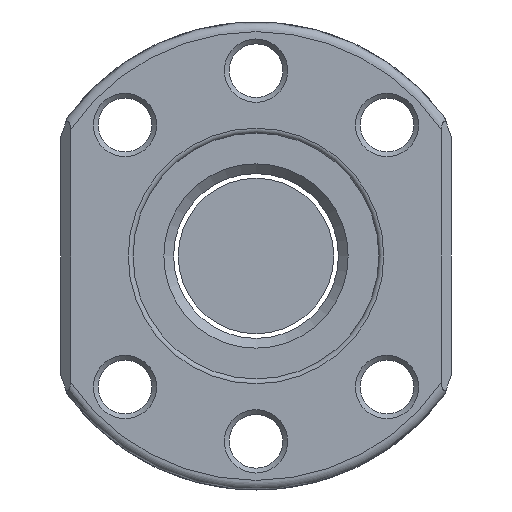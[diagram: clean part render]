
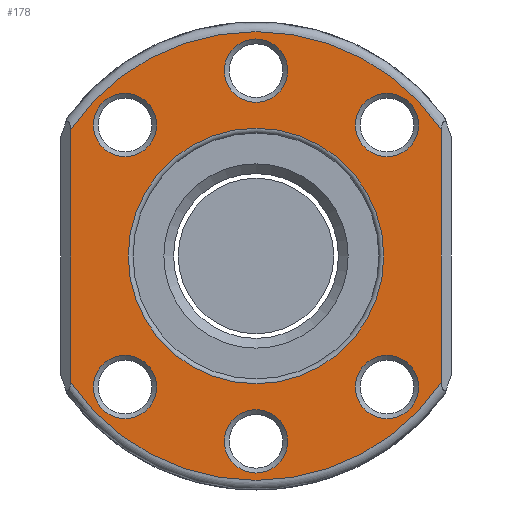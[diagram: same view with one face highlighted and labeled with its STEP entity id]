
A CAD part, front view. The second image highlights one B-rep face of the part: STEP entity #178.
In plain terms, the highlighted planar face has unit normal (0, -1, 0).
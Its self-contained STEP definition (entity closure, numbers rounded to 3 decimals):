
#74=LINE('',#1204,#98);
#75=LINE('',#1208,#99);
#98=VECTOR('',#987,1.);
#99=VECTOR('',#990,1.);
#134=PLANE('',#824);
#178=ADVANCED_FACE('',(#250,#251,#252,#253,#254,#255,#256,#257),#134,.T.);
#250=FACE_BOUND('',#332,.T.);
#251=FACE_BOUND('',#333,.T.);
#252=FACE_BOUND('',#334,.T.);
#253=FACE_BOUND('',#335,.T.);
#254=FACE_BOUND('',#336,.T.);
#255=FACE_BOUND('',#337,.T.);
#256=FACE_BOUND('',#338,.T.);
#257=FACE_BOUND('',#339,.T.);
#332=EDGE_LOOP('',(#441));
#333=EDGE_LOOP('',(#442));
#334=EDGE_LOOP('',(#443));
#335=EDGE_LOOP('',(#444));
#336=EDGE_LOOP('',(#445));
#337=EDGE_LOOP('',(#446));
#338=EDGE_LOOP('',(#447));
#339=EDGE_LOOP('',(#448,#449,#450,#451));
#441=ORIENTED_EDGE('',*,*,#681,.T.);
#442=ORIENTED_EDGE('',*,*,#682,.T.);
#443=ORIENTED_EDGE('',*,*,#683,.T.);
#444=ORIENTED_EDGE('',*,*,#684,.T.);
#445=ORIENTED_EDGE('',*,*,#685,.T.);
#446=ORIENTED_EDGE('',*,*,#686,.T.);
#447=ORIENTED_EDGE('',*,*,#687,.T.);
#448=ORIENTED_EDGE('',*,*,#688,.T.);
#449=ORIENTED_EDGE('',*,*,#689,.T.);
#450=ORIENTED_EDGE('',*,*,#690,.T.);
#451=ORIENTED_EDGE('',*,*,#691,.T.);
#611=VERTEX_POINT('',#1188);
#612=VERTEX_POINT('',#1190);
#613=VERTEX_POINT('',#1192);
#614=VERTEX_POINT('',#1194);
#615=VERTEX_POINT('',#1196);
#616=VERTEX_POINT('',#1198);
#617=VERTEX_POINT('',#1200);
#618=VERTEX_POINT('',#1202);
#619=VERTEX_POINT('',#1203);
#620=VERTEX_POINT('',#1205);
#621=VERTEX_POINT('',#1207);
#681=EDGE_CURVE('',#611,#611,#753,.T.);
#682=EDGE_CURVE('',#612,#612,#754,.T.);
#683=EDGE_CURVE('',#613,#613,#755,.T.);
#684=EDGE_CURVE('',#614,#614,#756,.T.);
#685=EDGE_CURVE('',#615,#615,#757,.T.);
#686=EDGE_CURVE('',#616,#616,#758,.T.);
#687=EDGE_CURVE('',#617,#617,#759,.T.);
#688=EDGE_CURVE('',#618,#619,#760,.T.);
#689=EDGE_CURVE('',#619,#620,#74,.T.);
#690=EDGE_CURVE('',#620,#621,#761,.T.);
#691=EDGE_CURVE('',#621,#618,#75,.T.);
#753=CIRCLE('',#815,3.25);
#754=CIRCLE('',#816,3.25);
#755=CIRCLE('',#817,3.25);
#756=CIRCLE('',#818,3.25);
#757=CIRCLE('',#819,3.25);
#758=CIRCLE('',#820,3.25);
#759=CIRCLE('',#821,13.1);
#760=CIRCLE('',#822,23.);
#761=CIRCLE('',#823,23.);
#815=AXIS2_PLACEMENT_3D('',#1187,#971,#972);
#816=AXIS2_PLACEMENT_3D('',#1189,#973,#974);
#817=AXIS2_PLACEMENT_3D('',#1191,#975,#976);
#818=AXIS2_PLACEMENT_3D('',#1193,#977,#978);
#819=AXIS2_PLACEMENT_3D('',#1195,#979,#980);
#820=AXIS2_PLACEMENT_3D('',#1197,#981,#982);
#821=AXIS2_PLACEMENT_3D('',#1199,#983,#984);
#822=AXIS2_PLACEMENT_3D('',#1201,#985,#986);
#823=AXIS2_PLACEMENT_3D('',#1206,#988,#989);
#824=AXIS2_PLACEMENT_3D('',#1209,#991,#992);
#971=DIRECTION('',(0.,1.,0.));
#972=DIRECTION('',(0.,0.,-1.));
#973=DIRECTION('',(0.,1.,0.));
#974=DIRECTION('',(0.,0.,-1.));
#975=DIRECTION('',(0.,1.,0.));
#976=DIRECTION('',(0.,0.,-1.));
#977=DIRECTION('',(0.,1.,0.));
#978=DIRECTION('',(0.,0.,-1.));
#979=DIRECTION('',(0.,1.,0.));
#980=DIRECTION('',(0.,0.,-1.));
#981=DIRECTION('',(0.,1.,0.));
#982=DIRECTION('',(0.,0.,-1.));
#983=DIRECTION('',(0.,1.,0.));
#984=DIRECTION('',(0.,0.,-1.));
#985=DIRECTION('',(0.,-1.,0.));
#986=DIRECTION('',(0.,0.,-1.));
#987=DIRECTION('',(0.,0.,-1.));
#988=DIRECTION('',(0.,-1.,0.));
#989=DIRECTION('',(0.,0.,-1.));
#990=DIRECTION('',(0.,0.,1.));
#991=DIRECTION('',(0.,-1.,0.));
#992=DIRECTION('',(0.,0.,-1.));
#1187=CARTESIAN_POINT('',(-13.435,0.,13.435));
#1188=CARTESIAN_POINT('',(-13.435,0.,10.185));
#1189=CARTESIAN_POINT('',(13.435,0.,13.435));
#1190=CARTESIAN_POINT('',(13.435,0.,10.185));
#1191=CARTESIAN_POINT('',(-13.435,0.,-13.435));
#1192=CARTESIAN_POINT('',(-13.435,0.,-16.685));
#1193=CARTESIAN_POINT('',(0.,0.,-19.));
#1194=CARTESIAN_POINT('',(0.,0.,-22.25));
#1195=CARTESIAN_POINT('',(0.,0.,19.));
#1196=CARTESIAN_POINT('',(0.,0.,15.75));
#1197=CARTESIAN_POINT('',(13.435,0.,-13.435));
#1198=CARTESIAN_POINT('',(13.435,0.,-16.685));
#1199=CARTESIAN_POINT('',(0.,0.,0.));
#1200=CARTESIAN_POINT('',(0.,0.,-13.1));
#1201=CARTESIAN_POINT('',(0.,0.,0.));
#1202=CARTESIAN_POINT('',(19.,0.,12.961));
#1203=CARTESIAN_POINT('',(-19.,0.,12.961));
#1204=CARTESIAN_POINT('',(-19.,0.,0.));
#1205=CARTESIAN_POINT('',(-19.,0.,-12.961));
#1206=CARTESIAN_POINT('',(0.,0.,0.));
#1207=CARTESIAN_POINT('',(19.,0.,-12.961));
#1208=CARTESIAN_POINT('',(19.,0.,0.));
#1209=CARTESIAN_POINT('',(0.,0.,0.));
